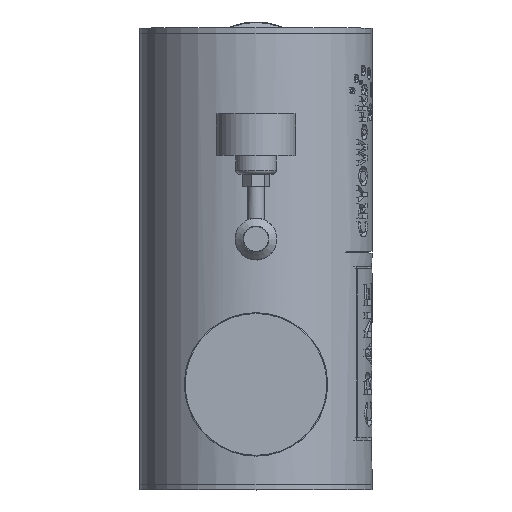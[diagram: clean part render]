
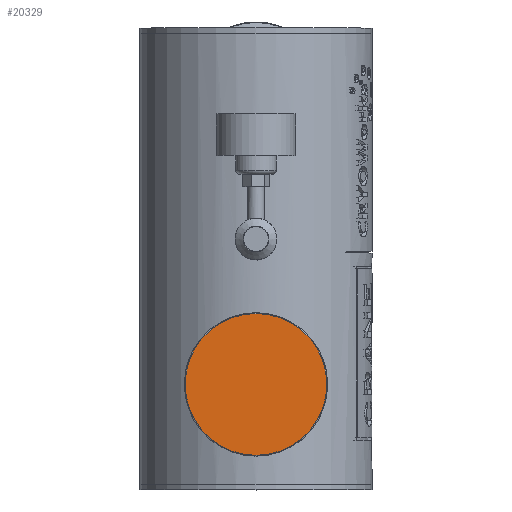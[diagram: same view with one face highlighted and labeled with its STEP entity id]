
A CAD part, top view. The second image highlights one B-rep face of the part: STEP entity #20329.
In plain terms, the highlighted planar face has unit normal (0, 0, 1).
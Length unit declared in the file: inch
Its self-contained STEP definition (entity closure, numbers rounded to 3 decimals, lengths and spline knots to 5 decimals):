
#3448 = EDGE_CURVE ( 'NONE', #25566, #25566, #8302, .T. ) ;
#3737 = AXIS2_PLACEMENT_3D ( 'NONE', #8987, #4852, #9539 ) ;
#4852 = DIRECTION ( 'NONE',  ( 0., 0., 1. ) ) ;
#6453 = FACE_OUTER_BOUND ( 'NONE', #26398, .T. ) ;
#8302 = CIRCLE ( 'NONE', #3737, 1.6985 ) ;
#8407 = CARTESIAN_POINT ( 'NONE',  ( 1.6985, 0., 14.5 ) ) ;
#8738 = DIRECTION ( 'NONE',  ( 1., 0., 0. ) ) ;
#8987 = CARTESIAN_POINT ( 'NONE',  ( 0., 0., 14.5 ) ) ;
#9539 = DIRECTION ( 'NONE',  ( 1., 0., 0. ) ) ;
#12743 = DIRECTION ( 'NONE',  ( 0., 0., 1. ) ) ;
#15131 = ORIENTED_EDGE ( 'NONE', *, *, #3448, .T. ) ;
#15172 = CARTESIAN_POINT ( 'NONE',  ( 0., 1.7185, 14.5 ) ) ;
#15452 = PLANE ( 'NONE',  #19240 ) ;
#19240 = AXIS2_PLACEMENT_3D ( 'NONE', #15172, #12743, #8738 ) ;
#20329 = ADVANCED_FACE ( 'NONE', ( #6453 ), #15452, .T. ) ;
#25566 = VERTEX_POINT ( 'NONE', #8407 ) ;
#26398 = EDGE_LOOP ( 'NONE', ( #15131 ) ) ;
